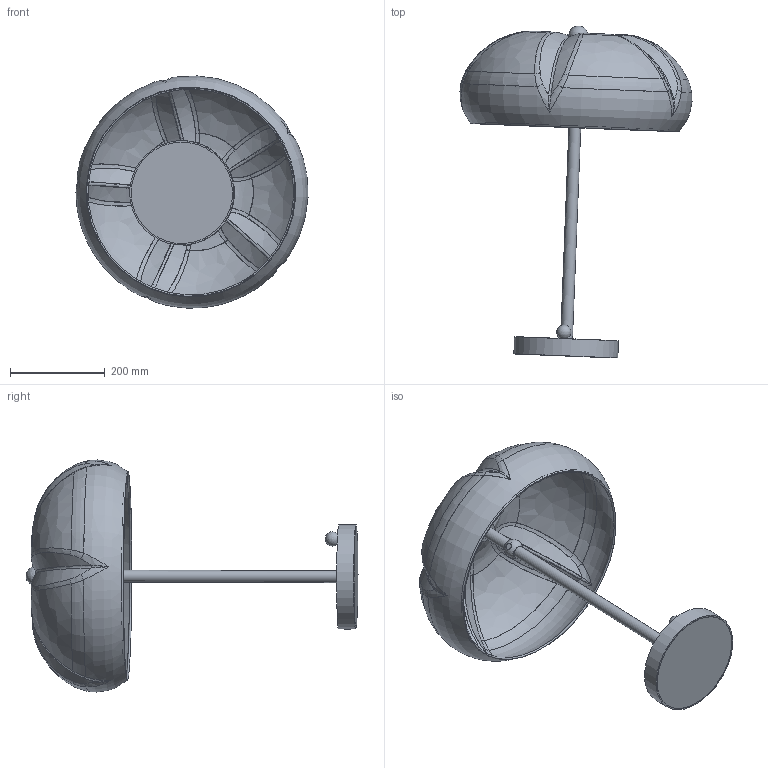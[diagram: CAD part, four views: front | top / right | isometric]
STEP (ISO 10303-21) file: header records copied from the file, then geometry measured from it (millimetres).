
FILE_DESCRIPTION(/* description */ (''),/* implementation_level */ '2;1');
FILE_NAME(/* name */ 'B672 Hana table lamp.stp',/* time_stamp */ '2023-09-20T13:20:43+02:00',/* author */ ('Mariusz Awariusz'),/* organization */ (''),/* preprocessor_version */ 'ST-DEVELOPER v19.2',/* originating_system */ 'Autodesk Inventor 2024',/* authorisation */ '');
FILE_SCHEMA (('AUTOMOTIVE_DESIGN { 1 0 10303 214 3 1 1 }'));
Length unit declared in the file: centimetre
Products named in the file (1): Część3
Bounding box: 489.27 x 700.09 x 489.43 mm (x, y, z)
Volume: 2561901.6 mm3; surface area: 1047272.6 mm2
Topology: 13 solids, 13 shells, 209 faces, 467 edges, 262 vertices
Faces by surface type: bspline 142, plane 26, cylinder 17, torus 14, cone 7, sphere 3
Full cylindrical faces by diameter (mm): 10 x1, 11.917 x2, 12 x1, 13 x1, 13.5 x3, 25 x2, 25.5 x2, 45 x3, 214 x1, 220 x1
Entity records: 11284 total; most frequent: CARTESIAN_POINT 7720, ORIENTED_EDGE 882, EDGE_CURVE 441, DIRECTION 426, B_SPLINE_CURVE_WITH_KNOTS 282, VERTEX_POINT 262, EDGE_LOOP 213, FACE_OUTER_BOUND 209
